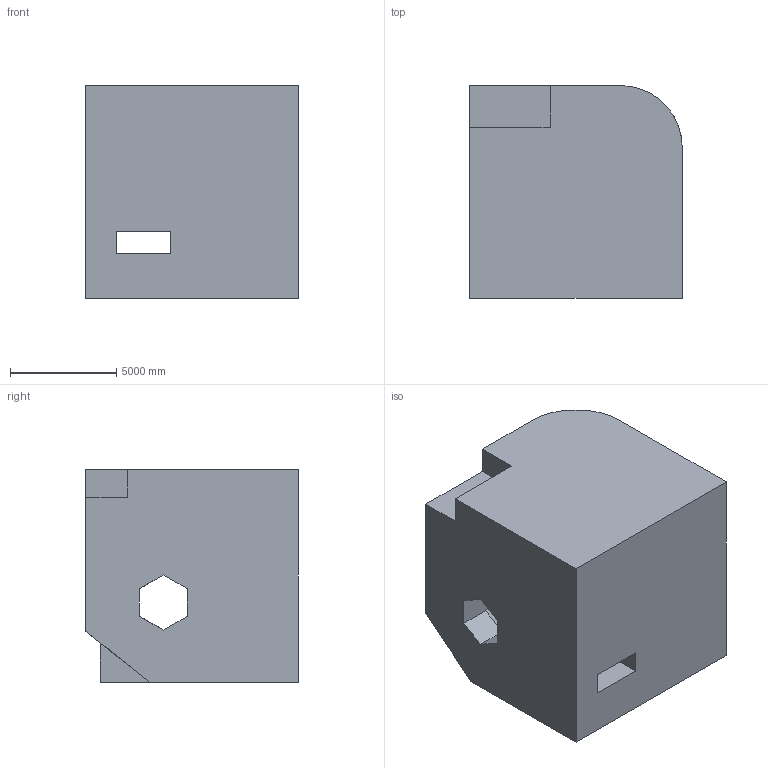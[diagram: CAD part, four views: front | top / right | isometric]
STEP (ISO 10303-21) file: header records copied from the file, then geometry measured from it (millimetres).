
FILE_DESCRIPTION (( 'STEP AP203' ), '1' );
FILE_NAME ('603.STEP', '2022-07-29T12:02:32', ( 'user' ), ( '' ), 'SwSTEP 2.0', 'SolidWorks 2021', '' );
FILE_SCHEMA (( 'CONFIG_CONTROL_DESIGN' ));
Length unit declared in the file: centimetre
Products named in the file (1): 603
Bounding box: 10000 x 10000 x 10000 mm (x, y, z)
Volume: 834791215942.9 mm3; surface area: 743692913.3 mm2
Topology: 1 solids, 1 shells, 37 faces, 120 edges, 80 vertices
Faces by surface type: plane 36, cylinder 1
Entity records: 1389 total; most frequent: CARTESIAN_POINT 247, ORIENTED_EDGE 240, DIRECTION 195, EDGE_CURVE 120, LINE 115, VECTOR 115, VERTEX_POINT 80, AXIS2_PLACEMENT_3D 40
